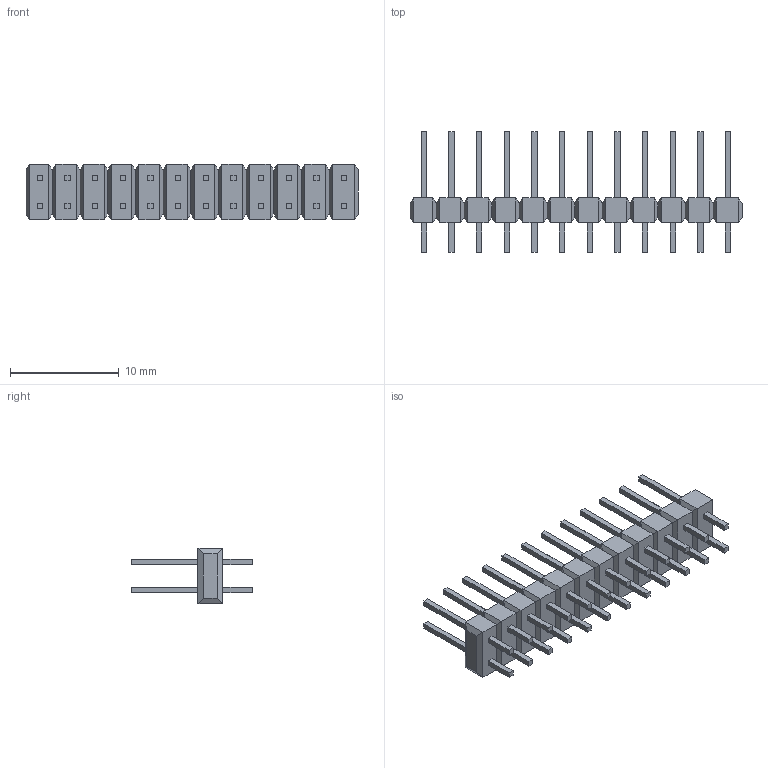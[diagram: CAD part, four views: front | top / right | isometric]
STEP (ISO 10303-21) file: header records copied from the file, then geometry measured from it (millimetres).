
FILE_DESCRIPTION((''),'2;1');
FILE_NAME('010897242','2016-10-25T',('gsharma'),(''),'PRO/ENGINEER BY PARAMETRIC TECHNOLOGY CORPORATION, 2012310','PRO/ENGINEER BY PARAMETRIC TECHNOLOGY CORPORATION, 2012310','');
FILE_SCHEMA(('CONFIG_CONTROL_DESIGN'));
Length unit declared in the file: inch
Products named in the file (1): 010897242
Bounding box: 30.48 x 11.1 x 5.08 mm (x, y, z)
Volume: 380.9 mm3; surface area: 967.2 mm2
Topology: 1 solids, 1 shells, 386 faces, 916 edges, 580 vertices
Faces by surface type: plane 386
Entity records: 10741 total; most frequent: CARTESIAN_POINT 1835, DIRECTION 1738, ORIENTED_EDGE 1736, VECTOR 868, LINE 868, EDGE_CURVE 868, VERTEX_POINT 532, AXIS2_PLACEMENT_3D 435
